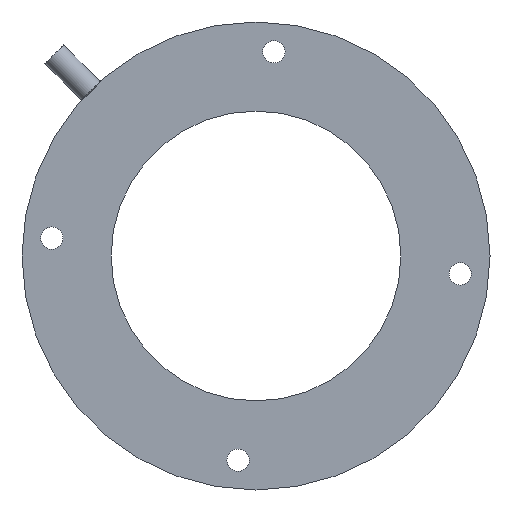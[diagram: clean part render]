
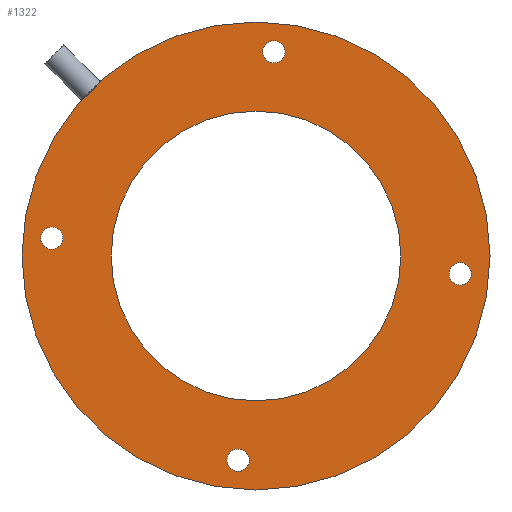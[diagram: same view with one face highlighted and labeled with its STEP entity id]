
A CAD part, left-side view. The second image highlights one B-rep face of the part: STEP entity #1322.
In plain terms, the highlighted planar face has unit normal (-1, 0, 0).
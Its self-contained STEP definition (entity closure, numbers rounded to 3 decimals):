
#6 = DIRECTION ( 'NONE',  ( 1., 0., 0. ) ) ;
#13 = DIRECTION ( 'NONE',  ( 1., 0., 0. ) ) ;
#20 = ORIENTED_EDGE ( 'NONE', *, *, #1712, .T. ) ;
#63 = DIRECTION ( 'NONE',  ( 1., 0., 0. ) ) ;
#68 = ORIENTED_EDGE ( 'NONE', *, *, #441, .T. ) ;
#92 = AXIS2_PLACEMENT_3D ( 'NONE', #320, #63, #1654 ) ;
#112 = AXIS2_PLACEMENT_3D ( 'NONE', #1099, #284, #1367 ) ;
#116 = CARTESIAN_POINT ( 'NONE',  ( 0., 0., 0. ) ) ;
#127 = DIRECTION ( 'NONE',  ( 1., 0., 0. ) ) ;
#136 = EDGE_CURVE ( 'NONE', #689, #1330, #1019, .T. ) ;
#143 = CARTESIAN_POINT ( 'NONE',  ( 0., -45.825, -4.009 ) ) ;
#170 = EDGE_CURVE ( 'NONE', #1198, #476, #1216, .T. ) ;
#172 = CIRCLE ( 'NONE', #1385, 2.5 ) ;
#183 = ORIENTED_EDGE ( 'NONE', *, *, #170, .T. ) ;
#214 = VERTEX_POINT ( 'NONE', #245 ) ;
#216 = ORIENTED_EDGE ( 'NONE', *, *, #715, .T. ) ;
#224 = CARTESIAN_POINT ( 'NONE',  ( 0., -45.825, -1.509 ) ) ;
#234 = DIRECTION ( 'NONE',  ( 0., 0., -1. ) ) ;
#245 = CARTESIAN_POINT ( 'NONE',  ( 0., -4.009, 43.325 ) ) ;
#246 = CIRCLE ( 'NONE', #679, 32.5 ) ;
#284 = DIRECTION ( 'NONE',  ( 1., 0., 0. ) ) ;
#320 = CARTESIAN_POINT ( 'NONE',  ( 0., 45.825, 4.009 ) ) ;
#327 = FACE_BOUND ( 'NONE', #1318, .T. ) ;
#335 = VERTEX_POINT ( 'NONE', #838 ) ;
#343 = CARTESIAN_POINT ( 'NONE',  ( 0., -45.825, -6.509 ) ) ;
#348 = DIRECTION ( 'NONE',  ( 0., 0., -1. ) ) ;
#357 = EDGE_LOOP ( 'NONE', ( #1314, #988 ) ) ;
#373 = CARTESIAN_POINT ( 'NONE',  ( 0., 0., 0. ) ) ;
#376 = CIRCLE ( 'NONE', #1452, 2.5 ) ;
#384 = VERTEX_POINT ( 'NONE', #995 ) ;
#385 = DIRECTION ( 'NONE',  ( 1., 0., 0. ) ) ;
#391 = AXIS2_PLACEMENT_3D ( 'NONE', #373, #1569, #672 ) ;
#407 = AXIS2_PLACEMENT_3D ( 'NONE', #116, #385, #1209 ) ;
#415 = CARTESIAN_POINT ( 'NONE',  ( 0., 4.009, -45.825 ) ) ;
#422 = FACE_BOUND ( 'NONE', #357, .T. ) ;
#441 = EDGE_CURVE ( 'NONE', #666, #846, #555, .T. ) ;
#450 = CIRCLE ( 'NONE', #485, 32.5 ) ;
#456 = ORIENTED_EDGE ( 'NONE', *, *, #867, .F. ) ;
#460 = AXIS2_PLACEMENT_3D ( 'NONE', #1589, #13, #717 ) ;
#476 = VERTEX_POINT ( 'NONE', #343 ) ;
#485 = AXIS2_PLACEMENT_3D ( 'NONE', #1054, #1202, #234 ) ;
#514 = CARTESIAN_POINT ( 'NONE',  ( 0., 45.825, 6.509 ) ) ;
#519 = DIRECTION ( 'NONE',  ( 0., 0., -1. ) ) ;
#553 = CARTESIAN_POINT ( 'NONE',  ( 0., 45.825, 1.509 ) ) ;
#555 = CIRCLE ( 'NONE', #92, 2.5 ) ;
#556 = AXIS2_PLACEMENT_3D ( 'NONE', #654, #127, #1058 ) ;
#560 = DIRECTION ( 'NONE',  ( 0., 0., -1. ) ) ;
#581 = ORIENTED_EDGE ( 'NONE', *, *, #1033, .T. ) ;
#586 = DIRECTION ( 'NONE',  ( 1., 0., 0. ) ) ;
#624 = CIRCLE ( 'NONE', #112, 2.5 ) ;
#654 = CARTESIAN_POINT ( 'NONE',  ( 0., 0., 0. ) ) ;
#666 = VERTEX_POINT ( 'NONE', #553 ) ;
#672 = DIRECTION ( 'NONE',  ( 0., 0., -1. ) ) ;
#679 = AXIS2_PLACEMENT_3D ( 'NONE', #1148, #586, #1012 ) ;
#689 = VERTEX_POINT ( 'NONE', #980 ) ;
#695 = DIRECTION ( 'NONE',  ( 0., 0., -1. ) ) ;
#712 = EDGE_CURVE ( 'NONE', #1114, #1006, #1270, .T. ) ;
#715 = EDGE_CURVE ( 'NONE', #214, #335, #1536, .T. ) ;
#717 = DIRECTION ( 'NONE',  ( 0., 0., -1. ) ) ;
#747 = ORIENTED_EDGE ( 'NONE', *, *, #1704, .T. ) ;
#816 = EDGE_CURVE ( 'NONE', #384, #1714, #450, .T. ) ;
#838 = CARTESIAN_POINT ( 'NONE',  ( 0., -4.009, 48.325 ) ) ;
#846 = VERTEX_POINT ( 'NONE', #514 ) ;
#867 = EDGE_CURVE ( 'NONE', #1330, #689, #1327, .T. ) ;
#899 = ORIENTED_EDGE ( 'NONE', *, *, #1138, .T. ) ;
#901 = AXIS2_PLACEMENT_3D ( 'NONE', #415, #1358, #695 ) ;
#906 = FACE_OUTER_BOUND ( 'NONE', #1046, .T. ) ;
#980 = CARTESIAN_POINT ( 'NONE',  ( 0., 0., -52.5 ) ) ;
#983 = CARTESIAN_POINT ( 'NONE',  ( 0., -45.825, -4.009 ) ) ;
#988 = ORIENTED_EDGE ( 'NONE', *, *, #1450, .T. ) ;
#995 = CARTESIAN_POINT ( 'NONE',  ( 0., 0., 32.5 ) ) ;
#1002 = AXIS2_PLACEMENT_3D ( 'NONE', #1234, #1363, #560 ) ;
#1006 = VERTEX_POINT ( 'NONE', #1478 ) ;
#1012 = DIRECTION ( 'NONE',  ( 0., 0., -1. ) ) ;
#1018 = ORIENTED_EDGE ( 'NONE', *, *, #712, .T. ) ;
#1019 = CIRCLE ( 'NONE', #556, 52.5 ) ;
#1033 = EDGE_CURVE ( 'NONE', #476, #1198, #376, .T. ) ;
#1046 = EDGE_LOOP ( 'NONE', ( #456, #1509 ) ) ;
#1054 = CARTESIAN_POINT ( 'NONE',  ( 0., 0., 0. ) ) ;
#1058 = DIRECTION ( 'NONE',  ( 0., 0., -1. ) ) ;
#1099 = CARTESIAN_POINT ( 'NONE',  ( 0., -4.009, 45.825 ) ) ;
#1114 = VERTEX_POINT ( 'NONE', #1538 ) ;
#1118 = DIRECTION ( 'NONE',  ( 1., 0., 0. ) ) ;
#1128 = EDGE_LOOP ( 'NONE', ( #581, #183 ) ) ;
#1137 = FACE_BOUND ( 'NONE', #1128, .T. ) ;
#1138 = EDGE_CURVE ( 'NONE', #846, #666, #172, .T. ) ;
#1148 = CARTESIAN_POINT ( 'NONE',  ( 0., 0., 0. ) ) ;
#1150 = AXIS2_PLACEMENT_3D ( 'NONE', #143, #6, #519 ) ;
#1191 = PLANE ( 'NONE',  #391 ) ;
#1198 = VERTEX_POINT ( 'NONE', #224 ) ;
#1202 = DIRECTION ( 'NONE',  ( 1., 0., 0. ) ) ;
#1209 = DIRECTION ( 'NONE',  ( 0., 0., -1. ) ) ;
#1216 = CIRCLE ( 'NONE', #1150, 2.5 ) ;
#1231 = CARTESIAN_POINT ( 'NONE',  ( 0., 0., -32.5 ) ) ;
#1234 = CARTESIAN_POINT ( 'NONE',  ( 0., -4.009, 45.825 ) ) ;
#1270 = CIRCLE ( 'NONE', #901, 2.5 ) ;
#1278 = EDGE_LOOP ( 'NONE', ( #216, #747 ) ) ;
#1294 = CARTESIAN_POINT ( 'NONE',  ( 0., 45.825, 4.009 ) ) ;
#1303 = CIRCLE ( 'NONE', #460, 2.5 ) ;
#1305 = FACE_BOUND ( 'NONE', #1278, .T. ) ;
#1314 = ORIENTED_EDGE ( 'NONE', *, *, #816, .T. ) ;
#1318 = EDGE_LOOP ( 'NONE', ( #20, #1018 ) ) ;
#1320 = CARTESIAN_POINT ( 'NONE',  ( 0., 0., 52.5 ) ) ;
#1322 = ADVANCED_FACE ( 'NONE', ( #1305, #1137, #327, #1481, #906, #422 ), #1191, .F. ) ;
#1327 = CIRCLE ( 'NONE', #407, 52.5 ) ;
#1330 = VERTEX_POINT ( 'NONE', #1320 ) ;
#1358 = DIRECTION ( 'NONE',  ( 1., 0., 0. ) ) ;
#1363 = DIRECTION ( 'NONE',  ( 1., 0., 0. ) ) ;
#1367 = DIRECTION ( 'NONE',  ( 0., 0., -1. ) ) ;
#1385 = AXIS2_PLACEMENT_3D ( 'NONE', #1294, #1408, #348 ) ;
#1408 = DIRECTION ( 'NONE',  ( 1., 0., 0. ) ) ;
#1447 = EDGE_LOOP ( 'NONE', ( #68, #899 ) ) ;
#1450 = EDGE_CURVE ( 'NONE', #1714, #384, #246, .T. ) ;
#1452 = AXIS2_PLACEMENT_3D ( 'NONE', #983, #1118, #1496 ) ;
#1478 = CARTESIAN_POINT ( 'NONE',  ( 0., 4.009, -48.325 ) ) ;
#1481 = FACE_BOUND ( 'NONE', #1447, .T. ) ;
#1496 = DIRECTION ( 'NONE',  ( 0., 0., -1. ) ) ;
#1509 = ORIENTED_EDGE ( 'NONE', *, *, #136, .F. ) ;
#1536 = CIRCLE ( 'NONE', #1002, 2.5 ) ;
#1538 = CARTESIAN_POINT ( 'NONE',  ( 0., 4.009, -43.325 ) ) ;
#1569 = DIRECTION ( 'NONE',  ( 1., 0., 0. ) ) ;
#1589 = CARTESIAN_POINT ( 'NONE',  ( 0., 4.009, -45.825 ) ) ;
#1654 = DIRECTION ( 'NONE',  ( 0., 0., -1. ) ) ;
#1704 = EDGE_CURVE ( 'NONE', #335, #214, #624, .T. ) ;
#1712 = EDGE_CURVE ( 'NONE', #1006, #1114, #1303, .T. ) ;
#1714 = VERTEX_POINT ( 'NONE', #1231 ) ;
